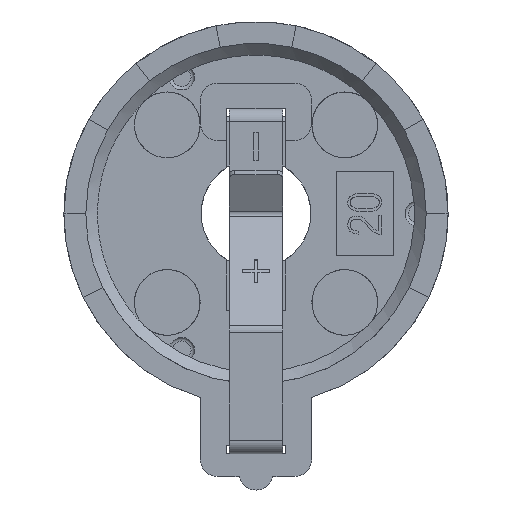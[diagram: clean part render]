
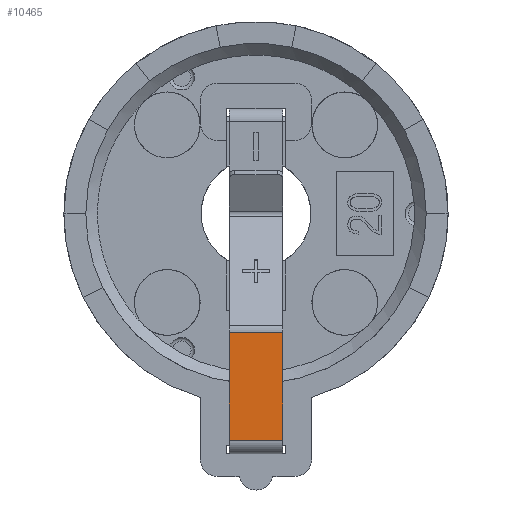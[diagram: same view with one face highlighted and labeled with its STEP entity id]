
A CAD part, front view. The second image highlights one B-rep face of the part: STEP entity #10465.
In plain terms, the highlighted planar face has unit normal (0, -1, 0).
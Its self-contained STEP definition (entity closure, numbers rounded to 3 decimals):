
#9242 = PLANE('',#9243);
#9243 = AXIS2_PLACEMENT_3D('',#9244,#9245,#9246);
#9244 = CARTESIAN_POINT('',(-1.6,-5.6,-13.45));
#9245 = DIRECTION('',(-1.,0.,0.));
#9246 = DIRECTION('',(0.,-1.,0.));
#9270 = CYLINDRICAL_SURFACE('',#9271,0.8);
#9271 = AXIS2_PLACEMENT_3D('',#9272,#9273,#9274);
#9272 = CARTESIAN_POINT('',(1.6,-5.6,-7.05));
#9273 = DIRECTION('',(-1.,0.,0.));
#9274 = DIRECTION('',(0.,0.,1.));
#9298 = PLANE('',#9299);
#9299 = AXIS2_PLACEMENT_3D('',#9300,#9301,#9302);
#9300 = CARTESIAN_POINT('',(1.6,-5.6,-13.45));
#9301 = DIRECTION('',(-1.,0.,0.));
#9302 = DIRECTION('',(0.,-1.,0.));
#9800 = CYLINDRICAL_SURFACE('',#9801,0.8);
#9801 = AXIS2_PLACEMENT_3D('',#9802,#9803,#9804);
#9802 = CARTESIAN_POINT('',(1.6,-5.6,-13.45));
#9803 = DIRECTION('',(-1.,0.,0.));
#9804 = DIRECTION('',(0.,0.,1.));
#10316 = VERTEX_POINT('',#10317);
#10317 = CARTESIAN_POINT('',(-1.6,-6.4,-13.45));
#10339 = EDGE_CURVE('',#10316,#10340,#10342,.T.);
#10340 = VERTEX_POINT('',#10341);
#10341 = CARTESIAN_POINT('',(-1.6,-6.4,-7.05));
#10342 = SURFACE_CURVE('',#10343,(#10347,#10354),.PCURVE_S1.);
#10343 = LINE('',#10344,#10345);
#10344 = CARTESIAN_POINT('',(-1.6,-6.4,-13.45));
#10345 = VECTOR('',#10346,1.);
#10346 = DIRECTION('',(0.,0.,1.));
#10347 = PCURVE('',#9242,#10348);
#10348 = DEFINITIONAL_REPRESENTATION('',(#10349),#10353);
#10349 = LINE('',#10350,#10351);
#10350 = CARTESIAN_POINT('',(0.8,0.));
#10351 = VECTOR('',#10352,1.);
#10352 = DIRECTION('',(0.,1.));
#10353 = ( GEOMETRIC_REPRESENTATION_CONTEXT(2) 
PARAMETRIC_REPRESENTATION_CONTEXT() REPRESENTATION_CONTEXT('2D SPACE',''
  ) );
#10354 = PCURVE('',#10355,#10360);
#10355 = PLANE('',#10356);
#10356 = AXIS2_PLACEMENT_3D('',#10357,#10358,#10359);
#10357 = CARTESIAN_POINT('',(1.6,-6.4,-13.45));
#10358 = DIRECTION('',(0.,-1.,0.));
#10359 = DIRECTION('',(0.,0.,-1.));
#10360 = DEFINITIONAL_REPRESENTATION('',(#10361),#10365);
#10361 = LINE('',#10362,#10363);
#10362 = CARTESIAN_POINT('',(0.,-3.2));
#10363 = VECTOR('',#10364,1.);
#10364 = DIRECTION('',(-1.,0.));
#10365 = ( GEOMETRIC_REPRESENTATION_CONTEXT(2) 
PARAMETRIC_REPRESENTATION_CONTEXT() REPRESENTATION_CONTEXT('2D SPACE',''
  ) );
#10422 = VERTEX_POINT('',#10423);
#10423 = CARTESIAN_POINT('',(1.6,-6.4,-13.45));
#10445 = EDGE_CURVE('',#10422,#10316,#10446,.T.);
#10446 = SURFACE_CURVE('',#10447,(#10451,#10458),.PCURVE_S1.);
#10447 = LINE('',#10448,#10449);
#10448 = CARTESIAN_POINT('',(1.6,-6.4,-13.45));
#10449 = VECTOR('',#10450,1.);
#10450 = DIRECTION('',(-1.,0.,0.));
#10451 = PCURVE('',#9800,#10452);
#10452 = DEFINITIONAL_REPRESENTATION('',(#10453),#10457);
#10453 = LINE('',#10454,#10455);
#10454 = CARTESIAN_POINT('',(4.712,0.));
#10455 = VECTOR('',#10456,1.);
#10456 = DIRECTION('',(0.,1.));
#10457 = ( GEOMETRIC_REPRESENTATION_CONTEXT(2) 
PARAMETRIC_REPRESENTATION_CONTEXT() REPRESENTATION_CONTEXT('2D SPACE',''
  ) );
#10458 = PCURVE('',#10355,#10459);
#10459 = DEFINITIONAL_REPRESENTATION('',(#10460),#10464);
#10460 = LINE('',#10461,#10462);
#10461 = CARTESIAN_POINT('',(0.,0.));
#10462 = VECTOR('',#10463,1.);
#10463 = DIRECTION('',(0.,-1.));
#10464 = ( GEOMETRIC_REPRESENTATION_CONTEXT(2) 
PARAMETRIC_REPRESENTATION_CONTEXT() REPRESENTATION_CONTEXT('2D SPACE',''
  ) );
#10465 = ADVANCED_FACE('',(#10466),#10355,.T.);
#10466 = FACE_BOUND('',#10467,.T.);
#10467 = EDGE_LOOP('',(#10468,#10469,#10470,#10493));
#10468 = ORIENTED_EDGE('',*,*,#10339,.F.);
#10469 = ORIENTED_EDGE('',*,*,#10445,.F.);
#10470 = ORIENTED_EDGE('',*,*,#10471,.T.);
#10471 = EDGE_CURVE('',#10422,#10472,#10474,.T.);
#10472 = VERTEX_POINT('',#10473);
#10473 = CARTESIAN_POINT('',(1.6,-6.4,-7.05));
#10474 = SURFACE_CURVE('',#10475,(#10479,#10486),.PCURVE_S1.);
#10475 = LINE('',#10476,#10477);
#10476 = CARTESIAN_POINT('',(1.6,-6.4,-13.45));
#10477 = VECTOR('',#10478,1.);
#10478 = DIRECTION('',(0.,0.,1.));
#10479 = PCURVE('',#10355,#10480);
#10480 = DEFINITIONAL_REPRESENTATION('',(#10481),#10485);
#10481 = LINE('',#10482,#10483);
#10482 = CARTESIAN_POINT('',(0.,0.));
#10483 = VECTOR('',#10484,1.);
#10484 = DIRECTION('',(-1.,0.));
#10485 = ( GEOMETRIC_REPRESENTATION_CONTEXT(2) 
PARAMETRIC_REPRESENTATION_CONTEXT() REPRESENTATION_CONTEXT('2D SPACE',''
  ) );
#10486 = PCURVE('',#9298,#10487);
#10487 = DEFINITIONAL_REPRESENTATION('',(#10488),#10492);
#10488 = LINE('',#10489,#10490);
#10489 = CARTESIAN_POINT('',(0.8,0.));
#10490 = VECTOR('',#10491,1.);
#10491 = DIRECTION('',(0.,1.));
#10492 = ( GEOMETRIC_REPRESENTATION_CONTEXT(2) 
PARAMETRIC_REPRESENTATION_CONTEXT() REPRESENTATION_CONTEXT('2D SPACE',''
  ) );
#10493 = ORIENTED_EDGE('',*,*,#10494,.T.);
#10494 = EDGE_CURVE('',#10472,#10340,#10495,.T.);
#10495 = SURFACE_CURVE('',#10496,(#10500,#10507),.PCURVE_S1.);
#10496 = LINE('',#10497,#10498);
#10497 = CARTESIAN_POINT('',(1.6,-6.4,-7.05));
#10498 = VECTOR('',#10499,1.);
#10499 = DIRECTION('',(-1.,0.,0.));
#10500 = PCURVE('',#10355,#10501);
#10501 = DEFINITIONAL_REPRESENTATION('',(#10502),#10506);
#10502 = LINE('',#10503,#10504);
#10503 = CARTESIAN_POINT('',(-6.4,0.));
#10504 = VECTOR('',#10505,1.);
#10505 = DIRECTION('',(0.,-1.));
#10506 = ( GEOMETRIC_REPRESENTATION_CONTEXT(2) 
PARAMETRIC_REPRESENTATION_CONTEXT() REPRESENTATION_CONTEXT('2D SPACE',''
  ) );
#10507 = PCURVE('',#9270,#10508);
#10508 = DEFINITIONAL_REPRESENTATION('',(#10509),#10513);
#10509 = LINE('',#10510,#10511);
#10510 = CARTESIAN_POINT('',(4.712,0.));
#10511 = VECTOR('',#10512,1.);
#10512 = DIRECTION('',(0.,1.));
#10513 = ( GEOMETRIC_REPRESENTATION_CONTEXT(2) 
PARAMETRIC_REPRESENTATION_CONTEXT() REPRESENTATION_CONTEXT('2D SPACE',''
  ) );
